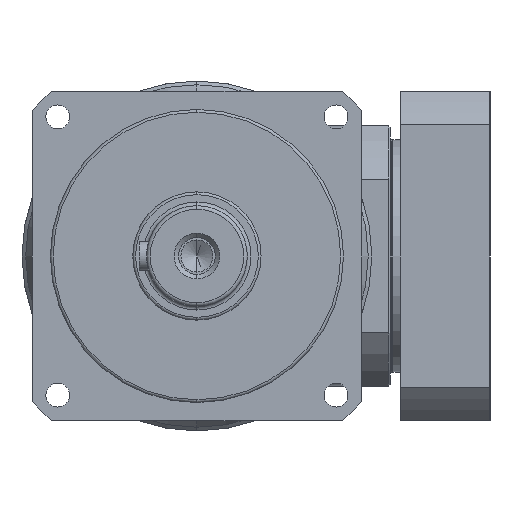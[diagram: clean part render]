
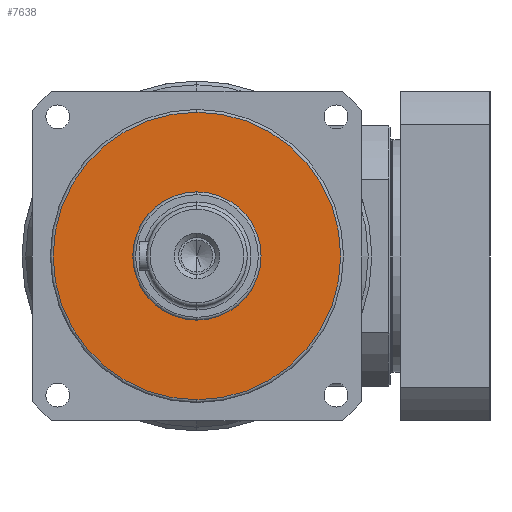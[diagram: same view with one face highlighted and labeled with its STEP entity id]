
A CAD part, left-side view. The second image highlights one B-rep face of the part: STEP entity #7638.
In plain terms, the highlighted planar face has unit normal (-1, 0, 0).
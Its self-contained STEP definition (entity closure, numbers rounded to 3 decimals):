
#223 = CARTESIAN_POINT ( 'NONE',  ( -20., 0., 0. ) ) ;
#321 = CARTESIAN_POINT ( 'NONE',  ( -20., 0., 0. ) ) ;
#1026 = ORIENTED_EDGE ( 'NONE', *, *, #7492, .T. ) ;
#1034 = CARTESIAN_POINT ( 'NONE',  ( -20., 0., -78.5 ) ) ;
#1053 = EDGE_CURVE ( 'NONE', #3181, #6368, #4782, .T. ) ;
#1154 = CIRCLE ( 'NONE', #9422, 78.5 ) ;
#1311 = CARTESIAN_POINT ( 'NONE',  ( -20., 0., 35. ) ) ;
#1559 = EDGE_LOOP ( 'NONE', ( #2554, #6846 ) ) ;
#1989 = EDGE_CURVE ( 'NONE', #6368, #3181, #5336, .T. ) ;
#2254 = AXIS2_PLACEMENT_3D ( 'NONE', #2480, #8972, #3932 ) ;
#2480 = CARTESIAN_POINT ( 'NONE',  ( -20., 0., 0. ) ) ;
#2554 = ORIENTED_EDGE ( 'NONE', *, *, #1053, .F. ) ;
#2616 = VERTEX_POINT ( 'NONE', #9417 ) ;
#2856 = DIRECTION ( 'NONE',  ( -1., 0., 0. ) ) ;
#3181 = VERTEX_POINT ( 'NONE', #5344 ) ;
#3784 = DIRECTION ( 'NONE',  ( 0., 0., 1. ) ) ;
#3932 = DIRECTION ( 'NONE',  ( 0., 0., 1. ) ) ;
#4566 = FACE_BOUND ( 'NONE', #1559, .T. ) ;
#4782 = CIRCLE ( 'NONE', #5142, 35. ) ;
#5077 = CIRCLE ( 'NONE', #2254, 78.5 ) ;
#5142 = AXIS2_PLACEMENT_3D ( 'NONE', #223, #9708, #3784 ) ;
#5289 = DIRECTION ( 'NONE',  ( 0., 0., 1. ) ) ;
#5336 = CIRCLE ( 'NONE', #9181, 35. ) ;
#5344 = CARTESIAN_POINT ( 'NONE',  ( -20., 0., -35. ) ) ;
#5539 = ORIENTED_EDGE ( 'NONE', *, *, #8614, .T. ) ;
#5563 = DIRECTION ( 'NONE',  ( -1., 0., 0. ) ) ;
#5665 = DIRECTION ( 'NONE',  ( 0., 0., 1. ) ) ;
#6102 = DIRECTION ( 'NONE',  ( -1., 0., 0. ) ) ;
#6368 = VERTEX_POINT ( 'NONE', #1311 ) ;
#6371 = DIRECTION ( 'NONE',  ( 0., 0., 1. ) ) ;
#6846 = ORIENTED_EDGE ( 'NONE', *, *, #1989, .F. ) ;
#6975 = AXIS2_PLACEMENT_3D ( 'NONE', #321, #2856, #6371 ) ;
#7492 = EDGE_CURVE ( 'NONE', #2616, #8796, #1154, .T. ) ;
#7638 = ADVANCED_FACE ( 'NONE', ( #4566, #8728 ), #10482, .T. ) ;
#8614 = EDGE_CURVE ( 'NONE', #8796, #2616, #5077, .T. ) ;
#8728 = FACE_OUTER_BOUND ( 'NONE', #10128, .T. ) ;
#8796 = VERTEX_POINT ( 'NONE', #1034 ) ;
#8972 = DIRECTION ( 'NONE',  ( -1., 0., 0. ) ) ;
#9181 = AXIS2_PLACEMENT_3D ( 'NONE', #9560, #5563, #5665 ) ;
#9292 = CARTESIAN_POINT ( 'NONE',  ( -20., 0., 0. ) ) ;
#9417 = CARTESIAN_POINT ( 'NONE',  ( -20., 0., 78.5 ) ) ;
#9422 = AXIS2_PLACEMENT_3D ( 'NONE', #9292, #6102, #5289 ) ;
#9560 = CARTESIAN_POINT ( 'NONE',  ( -20., 0., 0. ) ) ;
#9708 = DIRECTION ( 'NONE',  ( -1., 0., 0. ) ) ;
#10128 = EDGE_LOOP ( 'NONE', ( #1026, #5539 ) ) ;
#10482 = PLANE ( 'NONE',  #6975 ) ;
